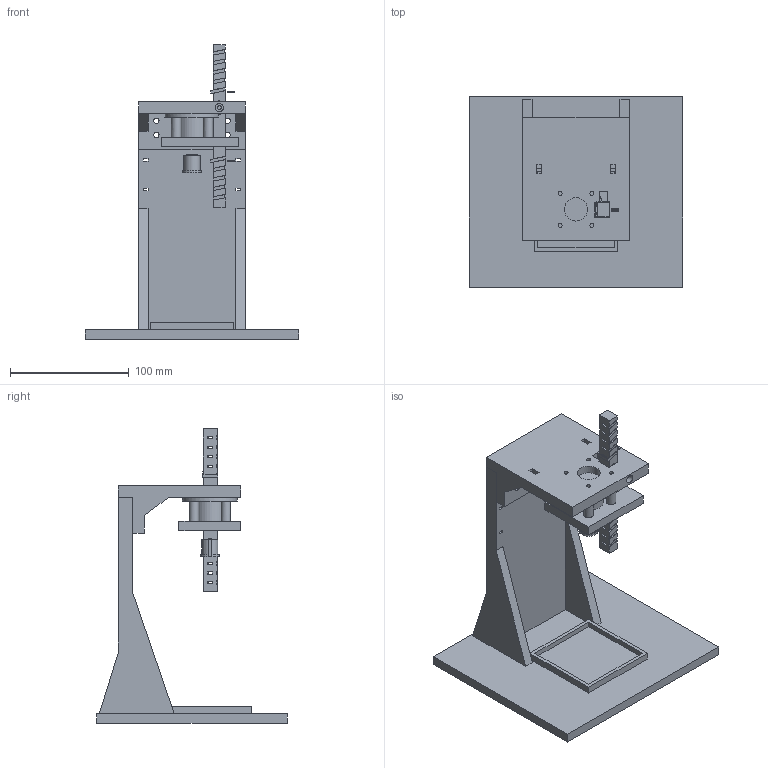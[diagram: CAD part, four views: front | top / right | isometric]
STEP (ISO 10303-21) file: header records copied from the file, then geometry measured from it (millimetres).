
FILE_DESCRIPTION(('Open CASCADE Model'),'2;1');
FILE_NAME('Open CASCADE Shape Model','2026-11-12T20:35:42',('Author'),( 'Open CASCADE'),'Open CASCADE STEP processor 7.9','Open CASCADE 7.9' ,'Unknown');
FILE_SCHEMA(('AUTOMOTIVE_DESIGN { 1 0 10303 214 1 1 1 1 }'));
Length unit declared in the file: millimetre
Products named in the file (19): direct_insert_common_Hall_rod; 01_frame_base_upright_tray; 02_head_common_rod_guide; 03_cassette_common_rod_guide; 04_D68_payload_carrier; 05_common_direct_insert_rod; REF_EM_nominal_25x20; REF_DC1_disk_1; REF_DC1_disk_2; REF_DC1_disk_3; REF_DC1_disk_4; REF_D68_N52_gap15; REF_nylon_retaining_loop_envelope; REF_upper_LPG_max_body; REF_upper_native_pins; REF_upper_retaining_loop; REF_lower_LPG_max_body; REF_lower_native_pins; REF_lower_retaining_loop
Assembly tree (18 placements, depth 2):
  direct_insert_common_Hall_rod
    01_frame_base_upright_tray
    02_head_common_rod_guide
    03_cassette_common_rod_guide
    04_D68_payload_carrier
    05_common_direct_insert_rod
    REF_EM_nominal_25x20
    REF_DC1_disk_1
    REF_DC1_disk_2
    REF_DC1_disk_3
    REF_DC1_disk_4
    REF_D68_N52_gap15
    REF_nylon_retaining_loop_envelope
    REF_upper_LPG_max_body
    REF_upper_native_pins
    REF_upper_retaining_loop
    REF_lower_LPG_max_body
    REF_lower_native_pins
    REF_lower_retaining_loop
Bounding box: 180 x 160 x 248 mm (x, y, z)
Volume: 645120.2 mm3; surface area: 172579.1 mm2
Topology: 22 solids, 22 shells, 506 faces, 1322 edges, 853 vertices
Faces by surface type: plane 467, cylinder 39
Full cylindrical faces by diameter (mm): 3.4 x9, 4.5 x8, 7 x1, 8 x4, 9.525 x1, 10 x1, 19.05 x4, 19.6 x2, 25 x1, 26 x1
Entity records: 32844 total; most frequent: CARTESIAN_POINT 5586, DIRECTION 4905, LINE 3602, VECTOR 3602, ORIENTED_EDGE 2644, PCURVE 2644, DEFINITIONAL_REPRESENTATION 2644, EDGE_CURVE 1322
